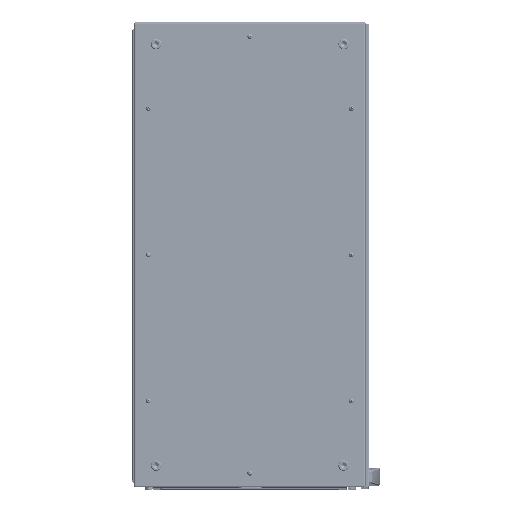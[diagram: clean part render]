
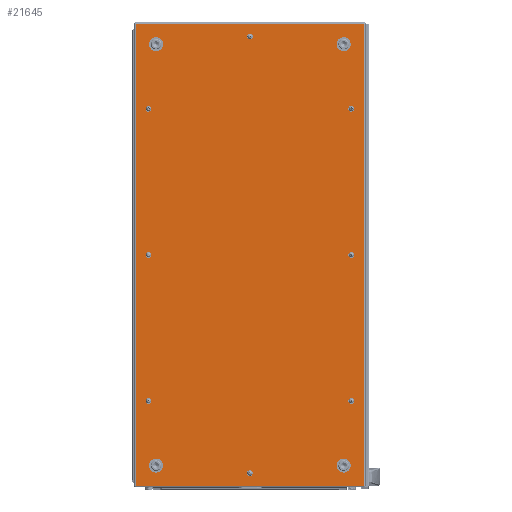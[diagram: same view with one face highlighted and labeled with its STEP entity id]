
A CAD part, top view. The second image highlights one B-rep face of the part: STEP entity #21645.
In plain terms, the highlighted planar face has unit normal (0, 0, 1).
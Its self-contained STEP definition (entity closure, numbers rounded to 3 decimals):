
#21645=ADVANCED_FACE('',(#134580,#134582,#134584,#134586,#134588,#134590,#134592,
#134594,#134596,#134598,#134600,#134602,#134604),#134606,.T.);
#134580=FACE_BOUND('',#134581,.T.);
#134581=EDGE_LOOP('',(#220202,#220203,#220204,#220205));
#134582=FACE_BOUND('',#134583,.T.);
#134583=EDGE_LOOP('',(#220206));
#134584=FACE_BOUND('',#134585,.T.);
#134585=EDGE_LOOP('',(#220207));
#134586=FACE_BOUND('',#134587,.T.);
#134587=EDGE_LOOP('',(#220208));
#134588=FACE_BOUND('',#134589,.T.);
#134589=EDGE_LOOP('',(#220209));
#134590=FACE_BOUND('',#134591,.T.);
#134591=EDGE_LOOP('',(#220210));
#134592=FACE_BOUND('',#134593,.T.);
#134593=EDGE_LOOP('',(#220211));
#134594=FACE_BOUND('',#134595,.T.);
#134595=EDGE_LOOP('',(#220212));
#134596=FACE_BOUND('',#134597,.T.);
#134597=EDGE_LOOP('',(#220213));
#134598=FACE_BOUND('',#134599,.T.);
#134599=EDGE_LOOP('',(#220214));
#134600=FACE_BOUND('',#134601,.T.);
#134601=EDGE_LOOP('',(#220215));
#134602=FACE_BOUND('',#134603,.T.);
#134603=EDGE_LOOP('',(#220216));
#134604=FACE_BOUND('',#134605,.T.);
#134605=EDGE_LOOP('',(#220217));
#134606=PLANE('',#134607);
#134607=AXIS2_PLACEMENT_3D('',#134608,#134609,#134610);
#134608=CARTESIAN_POINT('',(0.,0.,1.5));
#134609=DIRECTION('',(0.,0.,1.));
#134610=DIRECTION('',(0.,1.,0.));
#220202=ORIENTED_EDGE('',*,*,#259810,.T.);
#220203=ORIENTED_EDGE('',*,*,#259811,.T.);
#220204=ORIENTED_EDGE('',*,*,#259812,.T.);
#220205=ORIENTED_EDGE('',*,*,#259813,.T.);
#220206=ORIENTED_EDGE('',*,*,#259789,.T.);
#220207=ORIENTED_EDGE('',*,*,#259788,.T.);
#220208=ORIENTED_EDGE('',*,*,#259787,.T.);
#220209=ORIENTED_EDGE('',*,*,#259786,.T.);
#220210=ORIENTED_EDGE('',*,*,#259782,.T.);
#220211=ORIENTED_EDGE('',*,*,#259783,.T.);
#220212=ORIENTED_EDGE('',*,*,#259784,.T.);
#220213=ORIENTED_EDGE('',*,*,#259785,.T.);
#220214=ORIENTED_EDGE('',*,*,#259780,.T.);
#220215=ORIENTED_EDGE('',*,*,#259779,.T.);
#220216=ORIENTED_EDGE('',*,*,#259778,.T.);
#220217=ORIENTED_EDGE('',*,*,#259777,.T.);
#259777=EDGE_CURVE('',#318182,#318182,#318183,.F.);
#259778=EDGE_CURVE('',#318184,#318184,#318185,.F.);
#259779=EDGE_CURVE('',#318186,#318186,#318187,.F.);
#259780=EDGE_CURVE('',#318188,#318188,#318189,.F.);
#259782=EDGE_CURVE('',#318192,#318192,#318193,.F.);
#259783=EDGE_CURVE('',#318194,#318194,#318195,.F.);
#259784=EDGE_CURVE('',#318196,#318196,#318197,.F.);
#259785=EDGE_CURVE('',#318198,#318198,#318199,.F.);
#259786=EDGE_CURVE('',#318200,#318200,#318201,.F.);
#259787=EDGE_CURVE('',#318202,#318202,#318203,.F.);
#259788=EDGE_CURVE('',#318204,#318204,#318205,.F.);
#259789=EDGE_CURVE('',#318206,#318206,#318207,.F.);
#259810=EDGE_CURVE('',#318244,#318245,#318246,.T.);
#259811=EDGE_CURVE('',#318245,#318247,#318248,.T.);
#259812=EDGE_CURVE('',#318247,#318249,#318250,.T.);
#259813=EDGE_CURVE('',#318249,#318244,#318251,.T.);
#318182=VERTEX_POINT('',#451121);
#318183=CIRCLE('',#451122,3.75);
#318184=VERTEX_POINT('',#451126);
#318185=CIRCLE('',#451127,3.75);
#318186=VERTEX_POINT('',#451131);
#318187=CIRCLE('',#451132,3.75);
#318188=VERTEX_POINT('',#451136);
#318189=CIRCLE('',#451137,3.75);
#318192=VERTEX_POINT('',#451146);
#318193=CIRCLE('',#451147,7.);
#318194=VERTEX_POINT('',#451151);
#318195=CIRCLE('',#451152,7.);
#318196=VERTEX_POINT('',#451156);
#318197=CIRCLE('',#451157,7.);
#318198=VERTEX_POINT('',#451161);
#318199=CIRCLE('',#451162,7.);
#318200=VERTEX_POINT('',#451166);
#318201=CIRCLE('',#451167,3.75);
#318202=VERTEX_POINT('',#451171);
#318203=CIRCLE('',#451172,3.75);
#318204=VERTEX_POINT('',#451176);
#318205=CIRCLE('',#451177,3.75);
#318206=VERTEX_POINT('',#451181);
#318207=CIRCLE('',#451182,3.75);
#318244=VERTEX_POINT('',#451398);
#318245=VERTEX_POINT('',#451399);
#318246=LINE('',#451400,#451401);
#318247=VERTEX_POINT('',#451403);
#318248=LINE('',#451404,#451405);
#318249=VERTEX_POINT('',#451407);
#318250=LINE('',#451408,#451409);
#318251=LINE('',#451411,#451412);
#451121=CARTESIAN_POINT('',(-173.5,253.75,1.5));
#451122=AXIS2_PLACEMENT_3D('',#451123,#451124,#451125);
#451123=CARTESIAN_POINT('',(-173.5,250.,1.5));
#451124=DIRECTION('',(0.,0.,1.));
#451125=DIRECTION('',(0.,1.,0.));
#451126=CARTESIAN_POINT('',(173.5,-246.25,1.5));
#451127=AXIS2_PLACEMENT_3D('',#451128,#451129,#451130);
#451128=CARTESIAN_POINT('',(173.5,-250.,1.5));
#451129=DIRECTION('',(0.,0.,1.));
#451130=DIRECTION('',(0.,1.,0.));
#451131=CARTESIAN_POINT('',(173.5,253.75,1.5));
#451132=AXIS2_PLACEMENT_3D('',#451133,#451134,#451135);
#451133=CARTESIAN_POINT('',(173.5,250.,1.5));
#451134=DIRECTION('',(0.,0.,1.));
#451135=DIRECTION('',(0.,1.,0.));
#451136=CARTESIAN_POINT('',(-173.5,-246.25,1.5));
#451137=AXIS2_PLACEMENT_3D('',#451138,#451139,#451140);
#451138=CARTESIAN_POINT('',(-173.5,-250.,1.5));
#451139=DIRECTION('',(0.,0.,1.));
#451140=DIRECTION('',(0.,1.,0.));
#451146=CARTESIAN_POINT('',(160.5,367.5,1.5));
#451147=AXIS2_PLACEMENT_3D('',#451148,#451149,#451150);
#451148=CARTESIAN_POINT('',(160.5,360.5,1.5));
#451149=DIRECTION('',(0.,0.,1.));
#451150=DIRECTION('',(0.,1.,0.));
#451151=CARTESIAN_POINT('',(-160.5,-353.5,1.5));
#451152=AXIS2_PLACEMENT_3D('',#451153,#451154,#451155);
#451153=CARTESIAN_POINT('',(-160.5,-360.5,1.5));
#451154=DIRECTION('',(0.,0.,1.));
#451155=DIRECTION('',(0.,1.,0.));
#451156=CARTESIAN_POINT('',(-160.5,367.5,1.5));
#451157=AXIS2_PLACEMENT_3D('',#451158,#451159,#451160);
#451158=CARTESIAN_POINT('',(-160.5,360.5,1.5));
#451159=DIRECTION('',(0.,0.,1.));
#451160=DIRECTION('',(0.,1.,0.));
#451161=CARTESIAN_POINT('',(160.5,-353.5,1.5));
#451162=AXIS2_PLACEMENT_3D('',#451163,#451164,#451165);
#451163=CARTESIAN_POINT('',(160.5,-360.5,1.5));
#451164=DIRECTION('',(0.,0.,1.));
#451165=DIRECTION('',(0.,1.,0.));
#451166=CARTESIAN_POINT('',(-173.5,3.75,1.5));
#451167=AXIS2_PLACEMENT_3D('',#451168,#451169,#451170);
#451168=CARTESIAN_POINT('',(-173.5,0.,1.5));
#451169=DIRECTION('',(0.,0.,1.));
#451170=DIRECTION('',(0.,1.,0.));
#451171=CARTESIAN_POINT('',(173.5,3.75,1.5));
#451172=AXIS2_PLACEMENT_3D('',#451173,#451174,#451175);
#451173=CARTESIAN_POINT('',(173.5,0.,1.5));
#451174=DIRECTION('',(0.,0.,1.));
#451175=DIRECTION('',(0.,1.,0.));
#451176=CARTESIAN_POINT('',(0.,377.25,1.5));
#451177=AXIS2_PLACEMENT_3D('',#451178,#451179,#451180);
#451178=CARTESIAN_POINT('',(0.,373.5,1.5));
#451179=DIRECTION('',(0.,0.,1.));
#451180=DIRECTION('',(0.,1.,0.));
#451181=CARTESIAN_POINT('',(0.,-369.75,1.5));
#451182=AXIS2_PLACEMENT_3D('',#451183,#451184,#451185);
#451183=CARTESIAN_POINT('',(0.,-373.5,1.5));
#451184=DIRECTION('',(0.,0.,1.));
#451185=DIRECTION('',(0.,1.,0.));
#451398=CARTESIAN_POINT('',(195.2,395.2,1.5));
#451399=CARTESIAN_POINT('',(-195.2,395.2,1.5));
#451400=CARTESIAN_POINT('',(195.2,395.2,1.5));
#451401=VECTOR('',#451402,1.);
#451402=DIRECTION('',(-1.,0.,0.));
#451403=CARTESIAN_POINT('',(-195.2,-395.2,1.5));
#451404=CARTESIAN_POINT('',(-195.2,395.2,1.5));
#451405=VECTOR('',#451406,1.);
#451406=DIRECTION('',(0.,-1.,0.));
#451407=CARTESIAN_POINT('',(195.2,-395.2,1.5));
#451408=CARTESIAN_POINT('',(-195.2,-395.2,1.5));
#451409=VECTOR('',#451410,1.);
#451410=DIRECTION('',(1.,0.,0.));
#451411=CARTESIAN_POINT('',(195.2,-395.2,1.5));
#451412=VECTOR('',#451413,1.);
#451413=DIRECTION('',(0.,1.,0.));
